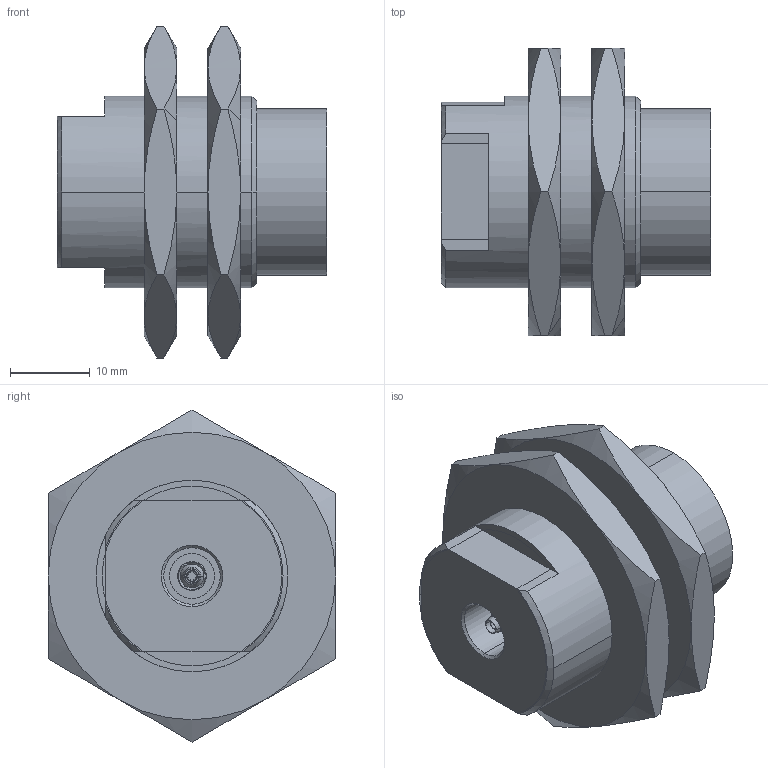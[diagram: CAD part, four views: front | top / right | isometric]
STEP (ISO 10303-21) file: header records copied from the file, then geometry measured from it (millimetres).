
FILE_DESCRIPTION((''),'2;1');
FILE_NAME('EU8_ASM','2008-09-19T',('11000205'),(''),'PRO/ENGINEER BY PARAMETRIC TECHNOLOGY CORPORATION, 2006460','PRO/ENGINEER BY PARAMETRIC TECHNOLOGY CORPORATION, 2006460','');
FILE_SCHEMA(('CONFIG_CONTROL_DESIGN'));
Length unit declared in the file: millimetre
Products named in the file (4): EU8; MUTTER-SW36; ZFG0_134; EU8_ASM
Assembly tree (4 placements, depth 2):
  EU8_ASM
    EU8
    MUTTER-SW36  x2
    ZFG0_134
Bounding box: 33.8 x 36 x 41.57 mm (x, y, z)
Volume: 19422 mm3; surface area: 10641.8 mm2
Topology: 4 solids, 7 shells, 839 faces, 2359 edges, 1547 vertices
Faces by surface type: plane 683, cylinder 77, cone 74, torus 5
Entity records: 26362 total; most frequent: CARTESIAN_POINT 5162, ORIENTED_EDGE 4570, DIRECTION 4081, EDGE_CURVE 2293, VECTOR 1943, LINE 1943, VERTEX_POINT 1509, AXIS2_PLACEMENT_3D 1069
